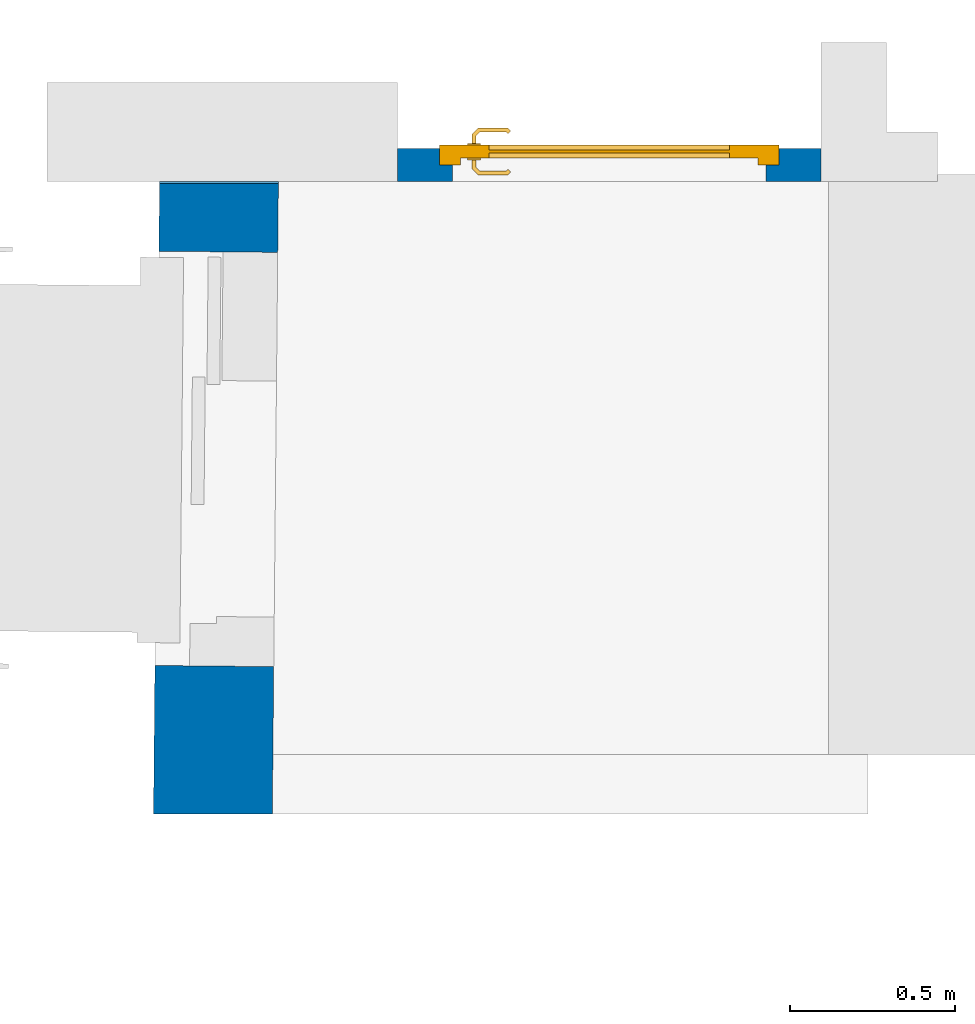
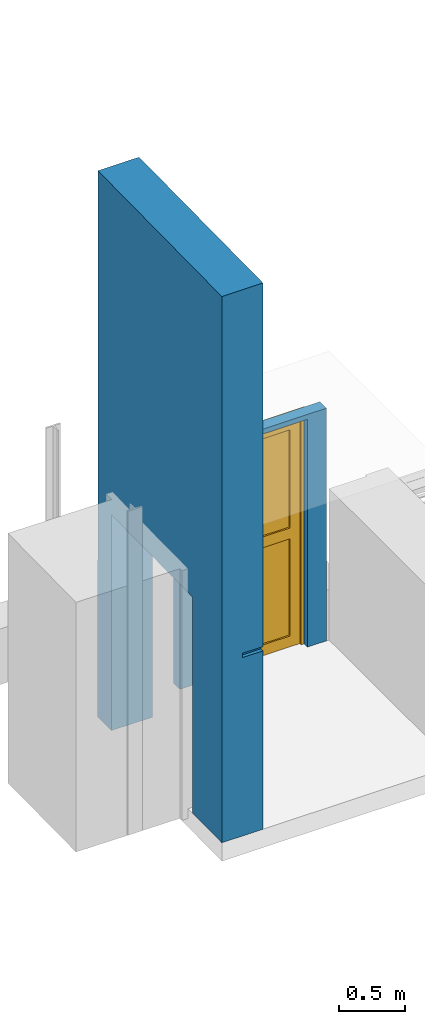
# One storey, part 7 of 13: 2 walls, 1 door, 3 openings.
"""IFC4 building model written with IfcOpenShell, lengths in metres."""

from ifc_helpers import new_model, entity, si_unit, converted_unit, derived_unit, direction, frame, origin, place, context, subcontext, project, spatial, indexed_curve, outline, extrude, polygons, source, transform, mapped, material, material_list, layer, layer_set, constituent, constituent_set, type_object, type_shapes, element, fill, save


model = new_model("IFC4")

# Units and contexts
model_context = context("Model", 3, precision=1e-05, world=origin(), true_north=direction((6.12303176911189e-17, 1.0)))
body_context = subcontext(model_context, "Body", "Model", "MODEL_VIEW")
ifc_project = project(units=[si_unit("LENGTHUNIT", "METRE"), si_unit("AREAUNIT", "SQUARE_METRE"), si_unit("VOLUMEUNIT", "CUBIC_METRE"), converted_unit("PLANEANGLEUNIT", "DEGREE", entity("IfcRatioMeasure", 0.0174532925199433), si_unit("PLANEANGLEUNIT", "RADIAN"), dimensions=[0, 0, 0, 0, 0, 0, 0]), si_unit("MASSUNIT", "GRAM", prefix="KILO"), derived_unit("MASSDENSITYUNIT", [(si_unit("MASSUNIT", "GRAM", prefix="KILO"), 1), (si_unit("LENGTHUNIT", "METRE"), -3)]), derived_unit("MOMENTOFINERTIAUNIT", [(si_unit("LENGTHUNIT", "METRE"), 4)]), si_unit("TIMEUNIT", "SECOND"), si_unit("FREQUENCYUNIT", "HERTZ"), si_unit("THERMODYNAMICTEMPERATUREUNIT", "DEGREE_CELSIUS"), derived_unit("THERMALTRANSMITTANCEUNIT", [(si_unit("MASSUNIT", "GRAM", prefix="KILO"), 1), (si_unit("THERMODYNAMICTEMPERATUREUNIT", "KELVIN"), -1), (si_unit("TIMEUNIT", "SECOND"), -3)]), derived_unit("VOLUMETRICFLOWRATEUNIT", [(si_unit("LENGTHUNIT", "METRE"), 3), (si_unit("TIMEUNIT", "SECOND"), -1)]), si_unit("ELECTRICCURRENTUNIT", "AMPERE"), si_unit("ELECTRICVOLTAGEUNIT", "VOLT"), si_unit("POWERUNIT", "WATT"), si_unit("FORCEUNIT", "NEWTON", prefix="KILO"), si_unit("ILLUMINANCEUNIT", "LUX"), si_unit("LUMINOUSFLUXUNIT", "LUMEN"), si_unit("LUMINOUSINTENSITYUNIT", "CANDELA"), derived_unit("USERDEFINED", [(si_unit("MASSUNIT", "GRAM", prefix="KILO"), -1), (si_unit("LENGTHUNIT", "METRE"), -2), (si_unit("TIMEUNIT", "SECOND"), 3), (si_unit("LUMINOUSFLUXUNIT", "LUMEN"), 1)]), derived_unit("LINEARVELOCITYUNIT", [(si_unit("LENGTHUNIT", "METRE"), 1), (si_unit("TIMEUNIT", "SECOND"), -1)]), si_unit("PRESSUREUNIT", "PASCAL"), derived_unit("USERDEFINED", [(si_unit("LENGTHUNIT", "METRE"), -2), (si_unit("MASSUNIT", "GRAM", prefix="KILO"), 1), (si_unit("TIMEUNIT", "SECOND"), -2)]), derived_unit("LINEARFORCEUNIT", [(si_unit("MASSUNIT", "GRAM", prefix="KILO"), 1), (si_unit("LENGTHUNIT", "METRE"), 1), (si_unit("TIMEUNIT", "SECOND"), -2), (si_unit("LENGTHUNIT", "METRE"), -1)]), derived_unit("PLANARFORCEUNIT", [(si_unit("MASSUNIT", "GRAM", prefix="KILO"), 1), (si_unit("LENGTHUNIT", "METRE"), 1), (si_unit("TIMEUNIT", "SECOND"), -2), (si_unit("LENGTHUNIT", "METRE"), -2)])], contexts=[model_context])

# Site, building, storey
site_placement = place(None, origin())
site = spatial("IfcSite", under=ifc_project, at=site_placement, Name="Default", CompositionType="ELEMENT")
building_placement = place(site_placement, origin())
building = spatial("IfcBuilding", under=site, at=building_placement, Name="HOTEL CONSULAIRE BOULOGNE SUR MER", CompositionType="ELEMENT")
storey_placement = place(building_placement, frame((0.0, 0.0, -1.40419978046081)))
storey = spatial("IfcBuildingStorey", under=building, at=storey_placement, Name="Demi-niveau", CompositionType="ELEMENT", Elevation=-1.40419978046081)

# Wall, openings
ifc_material_1 = material(Name="Mur par défaut", Category="Divers")
ifc_layer_1 = layer(ifc_material_1, 0.36, Name="Mur par défaut", Category="Divers")
ifc_layer_set_1 = layer_set([ifc_layer_1], Name="Mur de base:Générique - Int. 360")
wall_type_1 = type_object("IfcWallType", Name="Mur de base:Générique - Int. 360", PredefinedType="NOTDEFINED", material=ifc_layer_set_1)
wall_1_placement = place(storey_placement, frame((9.26619861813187, -12.1525234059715, -0.267375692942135), z_axis=(0.0, 0.0, 1.0), x_axis=(0.00962277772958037, 0.999953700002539, 0.0)))
wall_1 = element("IfcWall", 1, at=wall_1_placement, inside=storey, type_object=wall_type_1, material=ifc_layer_set_1, Name="Mur de base:Générique - Int. 360", ObjectType="Mur de base:Générique - Int. 360", PredefinedType="NOTDEFINED", context=body_context, shape_type="Tessellation", body=[
    polygons([(1.91655587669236, 0.18, 0.0), (1.92002023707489, -0.180000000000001, 0.0), (1.70455881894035, -0.18, 0.0), (1.70455881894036, 0.180000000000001, 0.0), (1.92002023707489, -0.180000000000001, 1.45157547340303), (1.91401995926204, -0.18, 1.45157547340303), (1.91401995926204, -0.18, 5.05810245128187), (0.0034643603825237, -0.18, 5.05810245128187), (0.0034643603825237, -0.18, 1.69157547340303), (0.0350630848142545, -0.179999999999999, 1.69157547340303), (0.0350630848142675, -0.179999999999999, 1.65157547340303), (0.0034643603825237, -0.18, 1.65157547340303), (0.0034643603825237, -0.18, 0.0), (0.449552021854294, -0.18, 0.0), (0.449552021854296, -0.18, 1.99997569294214), (1.70455881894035, -0.179999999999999, 1.99997569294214), (1.70455881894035, 0.180000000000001, 1.99997569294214), (0.449552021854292, 0.18, 1.99997569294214), (0.449552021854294, 0.18, 0.0), (0.0, 0.18, 0.0), (0.0, 0.18, 1.65157547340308), (0.0, 0.18, 5.05810245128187), (0.180008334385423, 0.18, 5.05810245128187), (1.91055559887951, 0.18, 5.05810245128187), (1.91055559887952, 0.18, 1.45157547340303), (1.91655587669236, 0.18, 1.45157547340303), (0.00173218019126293, -6.42952358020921e-16, 1.65157547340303), (0.00173218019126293, -6.42952358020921e-16, 1.69157547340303), (0.00173218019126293, 4.39914771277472e-16, 5.05810245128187), (0.0333309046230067, 1.35358391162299e-16, 1.65157547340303), (0.0333309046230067, 1.35358391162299e-16, 1.69157547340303)], [[[2, 3, 4, 1]], [[14, 13, 20, 19]], [[17, 16, 15, 18]], [[31, 10, 9, 28]], [[12, 13, 14, 15, 16, 3, 2, 5, 6, 7, 8, 9, 10, 11]], [[28, 27, 30, 31]], [[26, 1, 4, 17, 18, 19, 20, 21, 22, 23, 24, 25]], [[21, 20, 13, 12, 27, 28, 9, 8, 29, 22]], [[10, 31, 30, 11]], [[4, 3, 16, 17]], [[18, 15, 14, 19]], [[26, 25, 6, 5]], [[24, 23, 22, 29, 8, 7]], [[12, 11, 30, 27]], [[2, 1, 26, 5]], [[7, 6, 25, 24]]], closed=True),
])
opening_1_placement = place(storey_placement, frame((9.26619861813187, -12.1525234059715, -0.267375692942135), z_axis=(0.0, 0.0, 1.0), x_axis=(0.00962277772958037, 0.999953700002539, 0.0)))
element("IfcOpeningElement", 2, at=opening_1_placement, cuts=wall_1, Name="Mur de base:Générique - Int. 360:1", ObjectType="Opening", PredefinedType="OPENING", context=body_context, shape_type="SweptSolid", body=[
    extrude(outline(indexed_curve([(-0.0149332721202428, -0.0899999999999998), (0.0166654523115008, -0.0899999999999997), (0.0149332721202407, 0.0899999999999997), (-0.0166654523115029, 0.0899999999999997), (-0.0149332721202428, -0.0899999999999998)], self_intersect=False)), frame((0.0183976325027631, -0.0899999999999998, 1.65157547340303), z_axis=(0.0, 0.0, 1.0), x_axis=(-1.0, 0.0, 0.0)), (0.0, 0.0, 1.0), 0.04),
])
opening_2_placement = place(wall_1_placement, frame((0.420223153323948, 1.70371776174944, -2.43070578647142e-05)))
element("IfcOpeningElement", 3, at=opening_2_placement, cuts=wall_1, Name="Mur de base:Générique - Int. 360", ObjectType="Opening", PredefinedType="OPENING", context=body_context, shape_type="SweptSolid", body=[
    extrude(outline(indexed_curve([(-0.627503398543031, -1.0), (0.627503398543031, -1.0), (0.627503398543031, 1.0), (-0.627503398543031, 1.0), (-0.627503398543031, -1.0)], self_intersect=False)), frame((0.656832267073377, -3.04771776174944, 1.0), z_axis=(0.0, 1.0, 0.0), x_axis=(-1.0, 0.0, 0.0)), (0.0, 0.0, 1.0), 3.048),
])

# Wall, opening, door
ifc_layer_2 = layer(ifc_material_1, 0.1, Name="Mur par défaut", Category="Divers")
ifc_layer_set_2 = layer_set([ifc_layer_2], Name="Mur de base:Générique - Ext. 100 mm")
wall_type_2 = type_object("IfcWallType", Name="Mur de base:Générique - Ext. 100 mm", PredefinedType="NOTDEFINED", material=ifc_layer_set_2)
wall_2_placement = place(storey_placement, frame((9.82542407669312, -10.18432416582, -0.2674)))
wall_2 = element("IfcWall", 4, at=wall_2_placement, inside=storey, type_object=wall_type_2, material=ifc_layer_set_2, Name="Mur de base:Générique - Ext. 100 mm", ObjectType="Mur de base:Générique - Ext. 100 mm", PredefinedType="NOTDEFINED", context=body_context, shape_type="Tessellation", body=[
    polygons([(1.28306185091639, 0.0499999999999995, 2.43070578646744e-05), (1.28306185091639, -0.0499999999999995, 2.43070578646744e-05), (1.11653092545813, -0.0499999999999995, 2.43070578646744e-05), (1.11653092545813, 0.0, 2.43070578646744e-05), (1.15653092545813, 0.0, 2.43070578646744e-05), (1.15653092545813, 0.0499999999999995, 2.43070578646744e-05), (1.28306185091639, -0.0499999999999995, 2.15419732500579), (-6.21523117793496e-16, -0.0499999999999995, 2.15419732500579), (-6.21523117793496e-16, -0.0499999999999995, 1.4515997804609), (-6.21523117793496e-16, -0.0499999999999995, 1.11055269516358), (-6.21523117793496e-16, -0.0499999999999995, 0.594421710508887), (-6.21523117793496e-16, -0.0499999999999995, 0.46516309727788), (-6.21523117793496e-16, -0.0499999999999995, 2.43070578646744e-05), (0.166530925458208, -0.0499999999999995, 2.43070578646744e-05), (0.166530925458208, -0.0499999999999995, 2.11000000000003), (1.11653092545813, -0.0499999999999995, 2.11000000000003), (1.28306185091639, -0.0499999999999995, 0.466399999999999), (-1.01751827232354e-15, 0.0499999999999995, 2.15419732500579), (1.28306185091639, 0.0499999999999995, 2.15419732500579), (1.15653092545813, 0.0499999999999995, 2.15000000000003), (0.126530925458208, 0.0499999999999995, 2.15000000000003), (0.126530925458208, 0.0499999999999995, 2.43070578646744e-05), (-1.01751827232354e-15, 0.0499999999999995, 2.43070578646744e-05), (-1.01751827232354e-15, 0.0499999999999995, 0.46516309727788), (-1.01751827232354e-15, 0.0499999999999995, 0.594421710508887), (-1.01751827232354e-15, 0.0499999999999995, 0.610063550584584), (0.12653092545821, 0.0, 2.43070578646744e-05), (0.16653092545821, 0.0, 2.43070578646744e-05), (0.16653092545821, 0.0, 2.11000000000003), (1.11653092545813, 0.0, 2.11000000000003), (0.12653092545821, 0.0, 2.15000000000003), (1.15653092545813, 0.0, 2.15000000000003)], [[[2, 3, 4, 5, 6, 1]], [[14, 13, 23, 22, 27, 28]], [[30, 16, 15, 29]], [[31, 21, 20, 32]], [[14, 15, 16, 3, 2, 17, 7, 8, 9, 10, 11, 12, 13]], [[1, 6, 20, 21, 22, 23, 24, 25, 26, 18, 19]], [[28, 27, 31, 32, 5, 4, 30, 29]], [[8, 7, 19, 18]], [[17, 2, 1, 19, 7]], [[29, 15, 14, 28]], [[27, 22, 21, 31]], [[16, 30, 4, 3]], [[32, 20, 6, 5]], [[9, 8, 18, 26, 25, 24, 23, 13, 12, 11, 10]]], closed=True),
])
opening_3_placement = place(wall_2_placement, frame((0.126530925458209, -0.350000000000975, 0.0)))
opening_3 = element("IfcOpeningElement", 5, at=opening_3_placement, cuts=wall_2, Name="Mur de base:Générique - Ext. 100 mm", ObjectType="Opening", PredefinedType="OPENING", context=body_context, shape_type="Tessellation", body=[
    polygons([(0.98999999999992, 0.700000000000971, 2.11000000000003), (0.0400000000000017, 0.700000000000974, 2.11000000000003), (0.0400000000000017, 0.400000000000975, 2.11000000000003), (0.989999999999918, 0.40000000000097, 2.11000000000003), (0.0400000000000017, 0.700000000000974, 0.0), (0.0400000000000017, 0.400000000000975, 0.0), (0.989999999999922, 0.700000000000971, 0.0), (0.98999999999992, 0.400000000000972, 0.0), (0.0399999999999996, 4.33146851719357e-15, 2.11000000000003), (0.989999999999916, 0.0, 2.11000000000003), (0.989999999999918, 0.350000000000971, 2.11000000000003), (0.0400000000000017, 0.350000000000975, 2.11000000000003), (0.989999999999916, 0.0, 0.0), (0.0399999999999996, 4.33146851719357e-15, 0.0), (0.0400000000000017, 0.350000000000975, 0.0), (0.0, 0.350000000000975, 0.0), (2.16573425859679e-15, 0.400000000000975, 0.0), (1.02999999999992, 0.40000000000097, 0.0), (1.02999999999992, 0.350000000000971, 0.0), (0.989999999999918, 0.350000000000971, 0.0), (2.16573425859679e-15, 0.400000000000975, 2.15000000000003), (1.02999999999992, 0.40000000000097, 2.15000000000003), (2.16573425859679e-15, 0.350000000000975, 2.15000000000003), (1.02999999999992, 0.350000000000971, 2.15000000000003)], [[[2, 3, 4, 1]], [[9, 10, 11, 12]], [[24, 22, 21, 23]], [[6, 3, 2, 5]], [[15, 14, 9, 12]], [[21, 17, 16, 23]], [[7, 1, 4, 8]], [[13, 20, 11, 10]], [[18, 22, 24, 19]], [[13, 14, 15, 16, 17, 6, 5, 7, 8, 18, 19, 20]], [[13, 10, 9, 14]], [[12, 11, 20, 19, 24, 23, 16, 15]], [[5, 2, 1, 7]], [[4, 3, 6, 17, 21, 22, 18, 8]]], closed=True),
])
ifc_material_2 = material(Name="PVC - Blanc", Category="Plastique")
ifc_constituent_1 = constituent(ifc_material_2, Name="PVC - Blanc", Category="Matériaux")
ifc_material_3 = material(Name="Verre", Category="Verre")
ifc_constituent_2 = constituent(ifc_material_3, Name="Verre", Category="Matériaux")
ifc_constituent_set = constituent_set(constituents=[ifc_constituent_1, ifc_constituent_2], Name="MaterialConstituentSet")
ifc_material_list = material_list([ifc_material_2, ifc_material_2, ifc_material_2])
door_type = type_object("IfcDoorType", Name="PVC Panneau Vitré :0.93m x 2.10m", OperationType="SINGLE_SWING_LEFT", PredefinedType="DOOR", material=ifc_material_list)
shared_shape = source(origin(), body_context, "Body", "Tessellation", [
    polygons([(0.91899999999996, 0.43500000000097, 0.993000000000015), (0.922974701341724, 0.43500000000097, 0.992219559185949), (0.927025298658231, 0.43500000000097, 0.992219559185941), (0.930999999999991, 0.43500000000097, 0.99299999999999), (0.93099999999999, 0.43500000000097, 1.00699999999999), (0.927025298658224, 0.43500000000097, 1.00778044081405), (0.922974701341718, 0.43500000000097, 1.00778044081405), (0.918999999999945, 0.43500000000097, 1.00699999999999), (0.918999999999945, 0.457485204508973, 1.00699999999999), (0.918999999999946, 0.457485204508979, 0.993000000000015), (0.93099999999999, 0.462455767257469, 1.00699999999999), (0.927025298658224, 0.460809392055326, 1.00778044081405), (0.922974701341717, 0.459131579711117, 1.00778044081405), (0.930999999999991, 0.462455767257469, 0.99299999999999), (0.922974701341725, 0.45913157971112, 0.992219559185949), (0.927025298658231, 0.460809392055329, 0.992219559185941), (0.907514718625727, 0.468970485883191, 1.00699999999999), (0.907514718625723, 0.468970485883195, 0.993000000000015), (0.912485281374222, 0.480970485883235, 1.00699999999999), (0.91083890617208, 0.476995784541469, 1.00778044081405), (0.909161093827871, 0.472945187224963, 1.00778044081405), (0.912485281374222, 0.480970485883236, 0.99299999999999), (0.909161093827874, 0.47294518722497, 0.992219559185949), (0.910838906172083, 0.476995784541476, 0.992219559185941), (0.82743949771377, 0.468970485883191, 1.00699999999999), (0.827439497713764, 0.468970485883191, 0.993000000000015), (0.822468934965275, 0.480970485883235, 1.00699999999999), (0.824115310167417, 0.476995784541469, 1.00778044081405), (0.825793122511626, 0.472945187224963, 1.00778044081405), (0.862399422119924, 0.480970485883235, 1.00699999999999), (0.867477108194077, 0.475124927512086, 1.00787811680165), (0.867477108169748, 0.468970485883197, 1.00699999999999), (0.822468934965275, 0.480970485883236, 0.99299999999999), (0.825793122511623, 0.47294518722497, 0.992219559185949), (0.824115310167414, 0.476995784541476, 0.992219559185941), (0.872554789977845, 0.480970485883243, 0.992999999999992), (0.867477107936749, 0.475124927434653, 0.992121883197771), (0.867477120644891, 0.468970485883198, 0.993000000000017), (0.822125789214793, 0.463656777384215, 0.993000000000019), (0.822125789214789, 0.463656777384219, 1.00699999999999), (0.819315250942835, 0.466467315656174, 1.00778044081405), (0.816451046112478, 0.469331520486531, 1.00778044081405), (0.813640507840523, 0.472142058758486, 1.00699999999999), (0.813640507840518, 0.472142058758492, 0.992999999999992), (0.816451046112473, 0.469331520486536, 0.992219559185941), (0.81931525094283, 0.466467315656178, 0.992219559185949)], [[[2, 3, 4, 5, 6, 7, 8, 1]], [[18, 17, 32, 25, 26, 38]], [[9, 10, 1, 8]], [[7, 13, 9, 8]], [[7, 6, 12, 20, 21, 13]], [[29, 28, 42, 41]], [[5, 11, 12, 6]], [[11, 5, 4, 14]], [[4, 3, 16, 14]], [[3, 2, 15, 23, 24, 16]], [[35, 34, 46, 45]], [[2, 1, 10, 15]], [[17, 18, 10, 9]], [[41, 42, 43, 44, 45, 46, 39, 40]], [[9, 13, 21, 17]], [[11, 19, 20, 12]], [[22, 19, 11, 14]], [[14, 16, 24, 22]], [[15, 10, 18, 23]], [[31, 32, 21]], [[30, 27, 28]], [[30, 20, 19]], [[31, 20, 30]], [[29, 32, 31]], [[31, 28, 29]], [[17, 21, 32]], [[32, 29, 25]], [[20, 31, 21]], [[28, 31, 30]], [[19, 22, 36, 33, 27, 30]], [[24, 37, 36]], [[35, 36, 37]], [[36, 22, 24]], [[36, 35, 33]], [[23, 38, 37]], [[37, 24, 23]], [[37, 38, 34]], [[38, 23, 18]], [[26, 34, 38]], [[35, 37, 34]], [[40, 39, 26, 25]], [[25, 29, 41, 40]], [[28, 27, 43, 42]], [[44, 43, 27, 33]], [[35, 45, 44, 33]], [[26, 39, 46, 34]]], closed=True),
    polygons([(0.930999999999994, 0.38500000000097, 1.00699999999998), (0.931000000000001, 0.38500000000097, 0.992999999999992), (0.927025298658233, 0.38500000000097, 0.992219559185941), (0.922974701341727, 0.38500000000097, 0.992219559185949), (0.918999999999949, 0.38500000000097, 0.993000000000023), (0.918999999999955, 0.38500000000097, 1.00699999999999), (0.922974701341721, 0.38500000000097, 1.00778044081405), (0.927025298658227, 0.38500000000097, 1.00778044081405), (0.918999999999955, 0.362319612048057, 1.00699999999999), (0.922974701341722, 0.360673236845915, 1.00778044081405), (0.927025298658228, 0.358995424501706, 1.00778044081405), (0.930999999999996, 0.357349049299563, 1.00699999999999), (0.918999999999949, 0.362319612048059, 0.993000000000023), (0.931000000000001, 0.35734904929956, 0.992999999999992), (0.927025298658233, 0.358995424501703, 0.992219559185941), (0.922974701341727, 0.360673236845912, 0.992219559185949), (0.907652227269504, 0.350971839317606, 1.00699999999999), (0.909298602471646, 0.34699713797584, 1.00778044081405), (0.910976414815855, 0.342946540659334, 1.00778044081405), (0.912622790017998, 0.338971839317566, 1.00699999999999), (0.907652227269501, 0.350971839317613, 0.993000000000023), (0.912622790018, 0.33897183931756, 0.992999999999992), (0.910976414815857, 0.342946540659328, 0.992219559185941), (0.909298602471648, 0.346997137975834, 0.992219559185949), (0.827466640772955, 0.350971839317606, 1.00699999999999), (0.825820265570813, 0.34699713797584, 1.00778044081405), (0.824142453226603, 0.342946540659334, 1.00778044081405), (0.822496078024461, 0.338971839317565, 1.00699999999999), (0.872692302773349, 0.338971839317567, 1.00699999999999), (0.867559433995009, 0.344817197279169, 1.00787811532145), (0.867559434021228, 0.35097183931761, 1.00699999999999), (0.827466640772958, 0.350971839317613, 0.993000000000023), (0.822496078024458, 0.33897183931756, 0.992999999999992), (0.824142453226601, 0.342946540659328, 0.992219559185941), (0.82582026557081, 0.346997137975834, 0.992219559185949), (0.862426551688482, 0.338971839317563, 0.992999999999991), (0.867559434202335, 0.344817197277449, 0.992121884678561), (0.86755943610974, 0.350971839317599, 0.993000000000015), (0.813667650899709, 0.347800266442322, 1.00699999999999), (0.816478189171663, 0.350610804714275, 1.00778044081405), (0.819342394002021, 0.353475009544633, 1.00778044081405), (0.82215293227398, 0.356285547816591, 1.00699999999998), (0.82215293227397, 0.356285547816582, 0.993000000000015), (0.819342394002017, 0.353475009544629, 0.992219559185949), (0.816478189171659, 0.350610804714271, 0.992219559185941), (0.813667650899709, 0.347800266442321, 0.992999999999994)], [[[7, 8, 1, 2, 3, 4, 5, 6]], [[17, 21, 38, 32, 25, 31]], [[1, 8, 11, 12]], [[8, 7, 10, 18, 19, 11]], [[27, 26, 41, 40]], [[7, 6, 9, 10]], [[13, 9, 6, 5]], [[4, 16, 13, 5]], [[4, 3, 15, 23, 24, 16]], [[35, 34, 45, 44]], [[2, 14, 15, 3]], [[12, 14, 2, 1]], [[12, 11, 19, 20]], [[10, 9, 17, 18]], [[21, 17, 9, 13]], [[43, 44, 45, 46, 39, 40, 41, 42]], [[13, 16, 24, 21]], [[15, 14, 22, 23]], [[20, 22, 14, 12]], [[19, 30, 29]], [[27, 29, 30]], [[29, 20, 19]], [[29, 27, 28]], [[18, 31, 30]], [[30, 19, 18]], [[30, 31, 26]], [[31, 18, 17]], [[25, 26, 31]], [[27, 30, 26]], [[37, 38, 24]], [[36, 33, 34]], [[36, 23, 22]], [[37, 23, 36]], [[35, 38, 37]], [[37, 34, 35]], [[21, 24, 38]], [[38, 35, 32]], [[23, 37, 24]], [[34, 37, 36]], [[22, 20, 29, 28, 33, 36]], [[27, 40, 39, 28]], [[25, 42, 41, 26]], [[43, 42, 25, 32]], [[32, 35, 44, 43]], [[34, 33, 46, 45]], [[39, 46, 33, 28]]], closed=True),
    polygons([(0.904999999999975, 0.43000000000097, 1.08), (0.904999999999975, 0.43000000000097, 0.870000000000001), (0.914647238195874, 0.43000000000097, 0.866003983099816), (0.924999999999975, 0.43000000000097, 0.864641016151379), (0.935352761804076, 0.43000000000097, 0.866003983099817), (0.944999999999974, 0.43000000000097, 0.870000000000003), (0.944999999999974, 0.43000000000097, 1.08), (0.935352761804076, 0.43000000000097, 1.08399601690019), (0.924999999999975, 0.43000000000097, 1.08535898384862), (0.914647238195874, 0.43000000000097, 1.08399601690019), (0.904999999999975, 0.43500000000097, 1.08), (0.914647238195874, 0.43500000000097, 1.08399601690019), (0.924999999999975, 0.43500000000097, 1.08535898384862), (0.935352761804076, 0.43500000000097, 1.08399601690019), (0.944999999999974, 0.43500000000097, 1.08), (0.944999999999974, 0.43500000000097, 0.870000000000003), (0.935352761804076, 0.43500000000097, 0.866003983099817), (0.924999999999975, 0.43500000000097, 0.864641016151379), (0.914647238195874, 0.43500000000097, 0.866003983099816), (0.904999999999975, 0.43500000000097, 0.870000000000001)], [[[4, 5, 6, 7, 8, 9, 10, 1, 2, 3]], [[13, 14, 15, 16, 17, 18, 19, 20, 11, 12]], [[10, 12, 11, 1]], [[9, 13, 12, 10]], [[8, 14, 13, 9]], [[8, 7, 15, 14]], [[15, 7, 6, 16]], [[5, 17, 16, 6]], [[4, 18, 17, 5]], [[3, 19, 18, 4]], [[3, 2, 20, 19]], [[20, 2, 1, 11]]], closed=True),
    polygons([(0.944999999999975, 0.38500000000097, 0.870000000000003), (0.944999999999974, 0.38500000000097, 1.08), (0.935352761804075, 0.38500000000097, 1.08399601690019), (0.924999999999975, 0.38500000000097, 1.08535898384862), (0.914647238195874, 0.38500000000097, 1.08399601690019), (0.904999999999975, 0.38500000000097, 1.08), (0.904999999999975, 0.38500000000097, 0.870000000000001), (0.914647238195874, 0.38500000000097, 0.866003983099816), (0.924999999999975, 0.38500000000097, 0.864641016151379), (0.935352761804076, 0.38500000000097, 0.866003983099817), (0.944999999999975, 0.39000000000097, 0.870000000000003), (0.935352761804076, 0.39000000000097, 0.866003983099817), (0.924999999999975, 0.39000000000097, 0.864641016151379), (0.914647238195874, 0.39000000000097, 0.866003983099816), (0.904999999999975, 0.39000000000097, 0.870000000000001), (0.904999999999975, 0.39000000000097, 1.08), (0.914647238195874, 0.39000000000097, 1.08399601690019), (0.924999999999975, 0.39000000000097, 1.08535898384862), (0.935352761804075, 0.39000000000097, 1.08399601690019), (0.944999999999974, 0.39000000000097, 1.08)], [[[9, 10, 1, 2, 3, 4, 5, 6, 7, 8]], [[20, 11, 12, 13, 14, 15, 16, 17, 18, 19]], [[10, 12, 11, 1]], [[9, 13, 12, 10]], [[8, 14, 13, 9]], [[8, 7, 15, 14]], [[15, 7, 6, 16]], [[5, 17, 16, 6]], [[4, 18, 17, 5]], [[3, 19, 18, 4]], [[3, 2, 20, 19]], [[20, 2, 1, 11]]], closed=True),
    polygons([(1.02999999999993, 0.39000000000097, 0.0), (0.979999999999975, 0.39000000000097, 0.0), (0.979999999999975, 0.43000000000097, 0.0), (0.964999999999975, 0.43000000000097, 0.0), (0.964999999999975, 0.45000000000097, 0.0), (1.02999999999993, 0.45000000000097, 0.0), (1.02999999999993, 0.45000000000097, 2.15000000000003), (1.02999999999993, 0.39000000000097, 2.15000000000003), (0.964999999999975, 0.45000000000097, 2.08500000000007), (0.0649999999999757, 0.45000000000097, 2.08500000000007), (0.0649999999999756, 0.45000000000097, -7.69275066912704e-25), (1.65137237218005e-14, 0.45000000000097, -4.16533679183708e-24), (1.65137237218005e-14, 0.45000000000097, 2.15000000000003), (0.964999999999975, 0.43000000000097, 2.08500000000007), (0.979999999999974, 0.43000000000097, 2.10000000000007), (0.049999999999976, 0.43000000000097, 2.10000000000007), (0.049999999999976, 0.43000000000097, 0.0), (0.0649999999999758, 0.43000000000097, 4.03399441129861e-24), (0.064999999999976, 0.43000000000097, 2.08500000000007), (0.979999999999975, 0.39000000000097, 2.10000000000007), (1.65814029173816e-14, 0.39000000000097, 2.15000000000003), (1.67167613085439e-14, 0.39000000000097, 0.0), (0.049999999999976, 0.39000000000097, 8.06798882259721e-24), (0.0499999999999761, 0.39000000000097, 2.10000000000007)], [[[6, 1, 2, 3, 4, 5]], [[17, 23, 22, 12, 11, 18]], [[19, 10, 9, 14]], [[16, 15, 20, 24]], [[8, 1, 6, 7]], [[11, 10, 19, 18]], [[17, 16, 24, 23]], [[9, 10, 11, 12, 13, 7, 6, 5]], [[9, 5, 4, 14]], [[15, 3, 2, 20]], [[22, 21, 13, 12]], [[19, 14, 4, 3, 15, 16, 17, 18]], [[24, 20, 2, 1, 8, 21, 22, 23]], [[21, 8, 7, 13]]], closed=True),
    polygons([(0.879999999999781, 0.415000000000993, 2.01000000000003), (0.879999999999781, 0.415000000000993, 1.1), (0.149999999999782, 0.41500000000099, 1.1), (0.149999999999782, 0.41500000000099, 2.01000000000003), (0.879999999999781, 0.405000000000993, 2.01000000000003), (0.149999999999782, 0.40500000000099, 2.01000000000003), (0.149999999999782, 0.40500000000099, 1.1), (0.879999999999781, 0.405000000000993, 1.1)], [[[1, 2, 3, 4]], [[8, 5, 6, 7]], [[1, 5, 8, 2]], [[2, 8, 7, 3]], [[3, 7, 6, 4]], [[4, 6, 5, 1]]], closed=True),
    polygons([(0.149999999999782, 0.40500000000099, 1.0), (0.149999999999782, 0.40500000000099, 0.1), (0.879999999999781, 0.405000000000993, 0.1), (0.879999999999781, 0.405000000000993, 1.0), (0.149999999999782, 0.41500000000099, 1.0), (0.879999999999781, 0.415000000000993, 1.0), (0.879999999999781, 0.415000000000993, 0.1), (0.149999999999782, 0.41500000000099, 0.1)], [[[2, 3, 4, 1]], [[5, 6, 7, 8]], [[5, 1, 4, 6]], [[6, 4, 3, 7]], [[7, 3, 2, 8]], [[8, 2, 1, 5]]], closed=True),
    polygons([(0.979999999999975, 0.39000000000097, 2.10000000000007), (0.049999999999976, 0.39000000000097, 2.10000000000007), (0.049999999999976, 0.39000000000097, 4.03399441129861e-24), (0.979999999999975, 0.39000000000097, -4.03399441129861e-24), (0.149999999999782, 0.39000000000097, 2.01000000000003), (0.879999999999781, 0.39000000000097, 2.01000000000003), (0.879999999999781, 0.39000000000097, 1.1), (0.149999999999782, 0.39000000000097, 1.1), (0.149999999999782, 0.39000000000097, 0.1), (0.149999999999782, 0.39000000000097, 1.0), (0.879999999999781, 0.39000000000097, 1.0), (0.879999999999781, 0.39000000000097, 0.1), (0.979999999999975, 0.43000000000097, 2.10000000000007), (0.979999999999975, 0.43000000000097, 0.0), (0.049999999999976, 0.43000000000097, 0.0), (0.049999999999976, 0.43000000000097, 2.10000000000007), (0.149999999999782, 0.43000000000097, 2.01000000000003), (0.149999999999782, 0.43000000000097, 1.1), (0.879999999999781, 0.43000000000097, 1.1), (0.879999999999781, 0.43000000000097, 2.01000000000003), (0.149999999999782, 0.43000000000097, 0.1), (0.879999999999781, 0.43000000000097, 0.1), (0.879999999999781, 0.43000000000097, 1.0), (0.149999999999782, 0.43000000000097, 1.0)], [[[1, 2, 3, 4], [11, 12, 9, 10], [6, 7, 8, 5]], [[14, 15, 16, 13], [19, 20, 17, 18], [22, 23, 24, 21]], [[13, 1, 4, 14]], [[17, 5, 8, 18]], [[24, 10, 9, 21]], [[14, 4, 3, 15]], [[17, 20, 6, 5]], [[24, 23, 11, 10]], [[15, 3, 2, 16]], [[19, 7, 6, 20]], [[22, 12, 11, 23]], [[16, 2, 1, 13]], [[19, 18, 8, 7]], [[22, 21, 9, 12]]], closed=True),
])
type_shapes(door_type, [shared_shape])
door_placement = place(opening_3_placement, frame((1.02999999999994, 0.80000000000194, 0.0), z_axis=(0.0, 0.0, 1.0), x_axis=(-1.0, 0.0, 0.0)))
door = element("IfcDoor", 6, at=door_placement, inside=storey, type_object=door_type, material=ifc_constituent_set, Name="PVC Panneau Vitré :0.93m x 2.10m", ObjectType="PVC Panneau Vitré :0.93m x 2.10m", OperationType="SINGLE_SWING_LEFT", OverallHeight=2.15000000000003, OverallWidth=1.02999999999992, PredefinedType="DOOR", context=body_context, shape_type="MappedRepresentation", body=[
    mapped(shared_shape, transform((0.0, 0.0, 0.0), scale=1.0)),
])
fill(opening_3, door)

save(model, "model.ifc")
